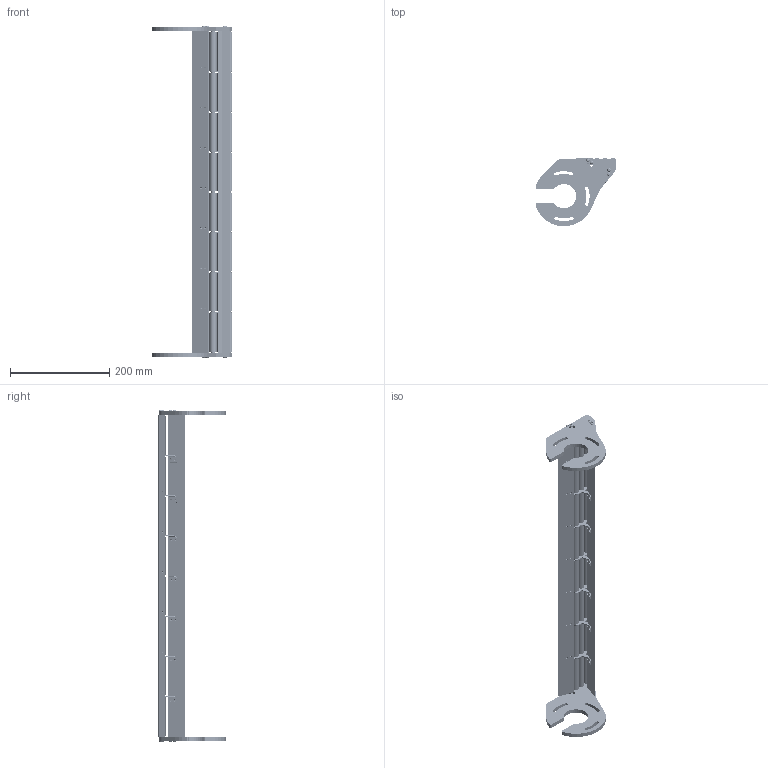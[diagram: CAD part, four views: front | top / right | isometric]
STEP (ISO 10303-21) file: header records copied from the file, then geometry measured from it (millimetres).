
FILE_DESCRIPTION (( 'STEP AP214' ), '1' );
FILE_NAME ('F2 2400 TGRI 1M.STEP', '2024-02-26T14:55:23', ( '' ), ( '' ), 'SwSTEP 2.0', 'SolidWorks 2022', '' );
FILE_SCHEMA (( 'AUTOMOTIVE_DESIGN' ));
Length unit declared in the file: millimetre
Products named in the file (13): GR F2 2400; PT-F2 - F2-2400 ALU; SA TGRI; F2 2400 TGRI 1M; AXE TGRI F2 2400; ENTRETOISE SA TGRI; SA TGRI + ENTRETOISE; PSTI F2 1M Symétrie; TBHC 4X16; ROULEMENT TGRI CAB-F2-R-HEF; ENTRETOISE TGRI CAB-F2-R-HEF; PSTI F2 1M; Galet + roulement F2 2400
Assembly tree (59 placements, depth 3):
  F2 2400 TGRI 1M
    PSTI F2 1M
    PSTI F2 1M Symétrie
    PT-F2 - F2-2400 ALU  x2
    AXE TGRI F2 2400  x3
    Galet + roulement F2 2400  x24
      GR F2 2400
      ROULEMENT TGRI CAB-F2-R-HEF
    ENTRETOISE TGRI CAB-F2-R-HEF  x6
    SA TGRI + ENTRETOISE  x7
      SA TGRI
      ENTRETOISE SA TGRI
    TBHC 4X16  x8
Bounding box: 162.87 x 136.6 x 667.78 mm (x, y, z)
Volume: 815193.9 mm3; surface area: 393866.3 mm2
Topology: 121 solids, 121 shells, 4109 faces, 9251 edges, 5547 vertices
Faces by surface type: cylinder 1529, cone 1032, plane 721, torus 701, sphere 91, bspline 35
Entity records: 17910 total; most frequent: CARTESIAN_POINT 3335, DIRECTION 3206, ORIENTED_EDGE 2630, EDGE_CURVE 1315, AXIS2_PLACEMENT_3D 1309, VERTEX_POINT 799, CIRCLE 689, EDGE_LOOP 622
